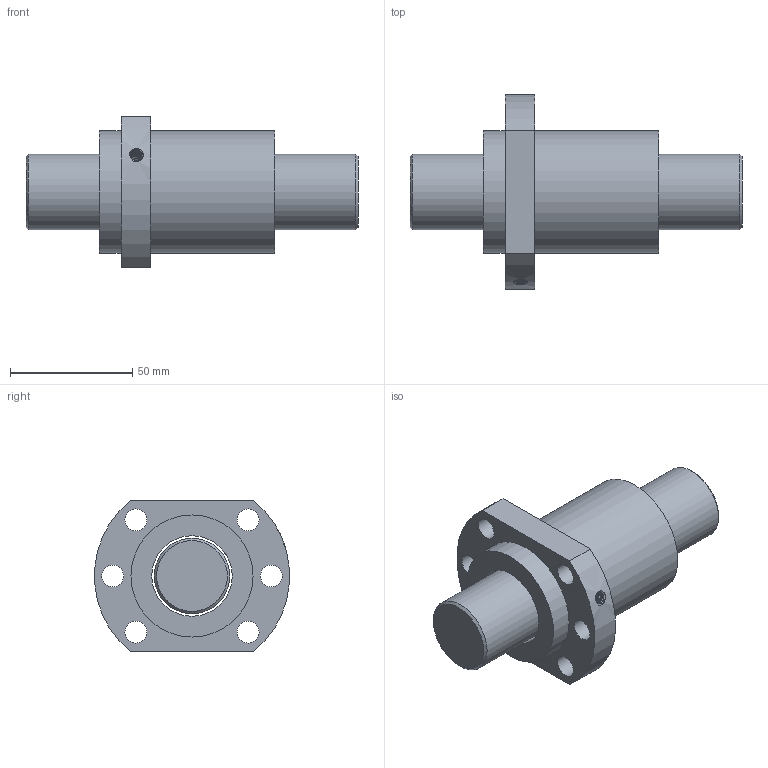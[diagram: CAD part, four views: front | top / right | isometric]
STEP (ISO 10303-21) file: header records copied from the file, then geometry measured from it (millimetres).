
FILE_DESCRIPTION (( 'STEP AP203' ), '1' );
FILE_NAME ('SFA3220-2.8.STEP', '2023-08-16T05:22:03', ( '' ), ( '' ), 'SwSTEP 2.0', 'SolidWorks 2022', '' );
FILE_SCHEMA (( 'CONFIG_CONTROL_DESIGN' ));
Length unit declared in the file: millimetre
Products named in the file (1): SFA3220-2.8
Bounding box: 136 x 79.74 x 62 mm (x, y, z)
Volume: 206683 mm3; surface area: 43186.5 mm2
Topology: 2 solids, 2 shells, 30 faces, 70 edges, 46 vertices
Faces by surface type: cylinder 16, plane 9, cone 3, bspline 2
Full cylindrical faces by diameter (mm): 4 x1, 4.917 x1, 9 x6, 31 x1, 33 x1, 50 x2
Entity records: 2601 total; most frequent: CARTESIAN_POINT 1901, DIRECTION 128, ORIENTED_EDGE 100, EDGE_LOOP 63, AXIS2_PLACEMENT_3D 60, EDGE_CURVE 50, FACE_OUTER_BOUND 42, VERTEX_POINT 41
